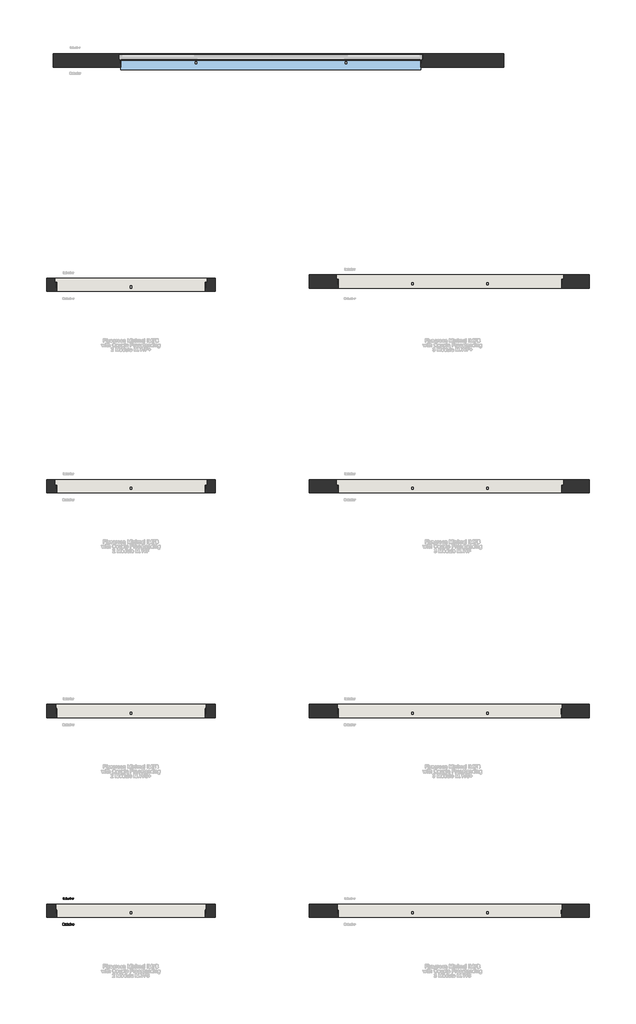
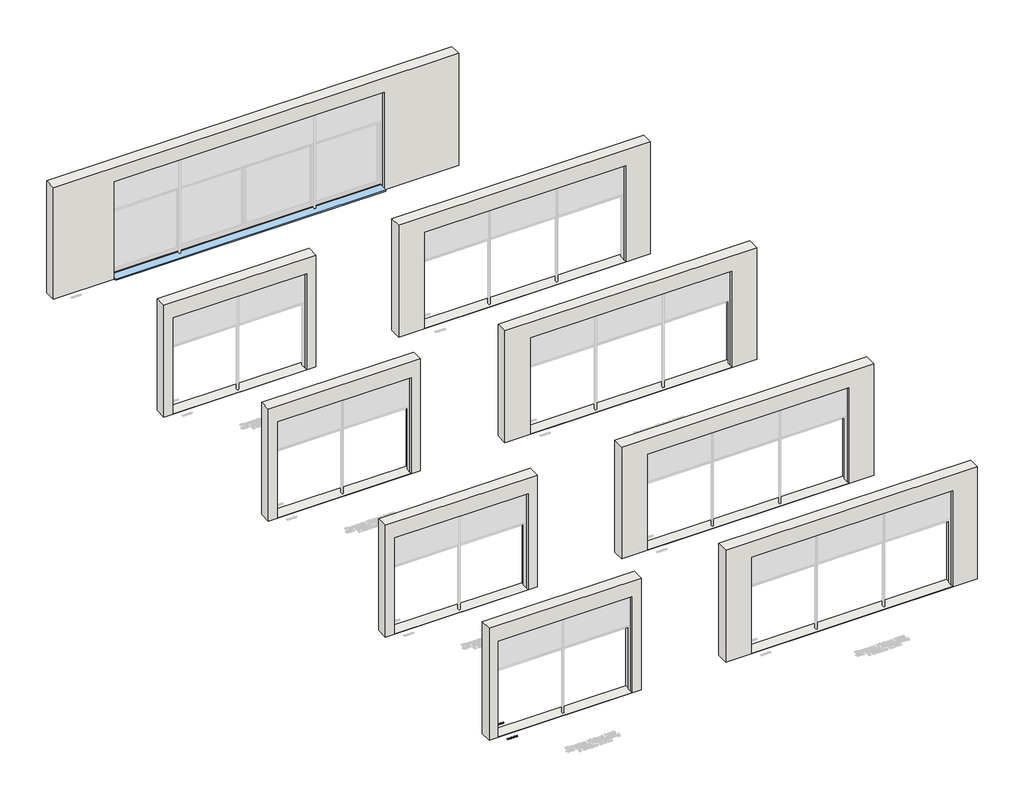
# One storey, part 1 of 14: 9 walls, 2 proxies, 1 window.
"""IFC4 building model written with IfcOpenShell, lengths in millimetres."""

from ifc_helpers import new_model, si_unit, origin, origin_with_axes, place, context, project, spatial, polyline, outline, extrude, faceted_brep, transform, mapped, element, save
from components import simple_generic_sliding_window_e4a07dc5

model = new_model("IFC4")

# Units and contexts
model_context = context("Model", 3, world=origin())
ifc_project = project(units=[si_unit("LENGTHUNIT", "METRE", prefix="MILLI")], contexts=[model_context])

# Site, building, storey
site = spatial("IfcSite", under=ifc_project)
building = spatial("IfcBuilding", under=site)
storey = spatial("IfcBuildingStorey", under=building, Name="Fixscreen Mini CF Overview Top", Elevation=0.0)

# Proxies
placement = place(None, origin())
element("IfcBuildingElementProxy", 1, Name="50mm Arial", ObjectType="50mm Arial", at=placement, inside=storey, context=model_context, shape_type="SweptSolid", body=[
    extrude(outline(polyline([(-9359.7717135, -1330.6720663), (-9318.4500461, -1330.6720663), (-9318.4500461, -1342.478257), (-9344.0301259, -1342.478257), (-9344.0301259, -1347.3975031), (-9320.4177446, -1347.3975031), (-9320.4177446, -1359.2036938), (-9344.0301259, -1359.2036938), (-9344.0301259, -1369.042186), (-9317.4661969, -1369.042186), (-9317.4661969, -1380.8483767), (-9359.7717135, -1380.8483767), (-9359.7717135, -1330.6720663)])), origin_with_axes(), (0.0, 0.0, 1.0), 3.0),
    extrude(outline(polyline([(-9313.5308, -1344.4459554), (-9296.8053632, -1344.4459554), (-9291.3941925, -1354.5919005), (-9283.0314741, -1344.4459554), (-9269.257585, -1344.4459554), (-9281.6786814, -1361.786298), (-9268.2737357, -1380.8483767), (-9284.0153233, -1380.8483767), (-9291.3941925, -1369.1190492), (-9300.7407601, -1380.8483767), (-9314.5146492, -1380.8483767), (-9301.1097036, -1361.786298), (-9313.5308, -1344.4459554)])), origin_with_axes(), (0.0, 0.0, 1.0), 3.0),
    extrude(outline(polyline([(-9247.6129021, -1330.6720663), (-9247.6129021, -1344.4459554), (-9239.7421083, -1344.4459554), (-9239.7421083, -1354.2844477), (-9247.6129021, -1354.2844477), (-9247.6129021, -1367.6125301), (-9247.182468, -1370.7946674), (-9244.8765714, -1371.9937337), (-9240.7259575, -1371.071375), (-9239.7421083, -1380.7100229), (-9249.1809118, -1381.8322259), (-9256.6673894, -1380.4717469), (-9260.2338429, -1376.3365056), (-9261.3867912, -1367.3358225), (-9261.3867912, -1354.2844477), (-9266.3060373, -1354.2844477), (-9266.3060373, -1344.4459554), (-9261.3867912, -1344.4459554), (-9261.3867912, -1337.8049732), (-9247.6129021, -1330.6720663)])), origin_with_axes(), (0.0, 0.0, 1.0), 3.0),
    extrude(outline(polyline([(-9193.5011948, -1365.2989472), (-9221.048973, -1366.0906383), (-9219.3272369, -1370.1028984), (-9214.3003823, -1371.9937337), (-9210.5802024, -1371.0867477), (-9208.2589331, -1369.042186), (-9194.485044, -1370.0260352), (-9201.9023448, -1379.0882089), (-9214.3772455, -1381.8322259), (-9225.4609219, -1379.7722916), (-9232.1633947, -1373.2389178), (-9234.8228622, -1362.7086566), (-9229.4654957, -1348.7887274), (-9223.08777, -1344.7937615), (-9214.6693257, -1343.4621062), (-9202.5787411, -1345.844866), (-9195.822464, -1352.7471832), (-9193.5011948, -1365.2989472)]), holes=[polyline([(-9207.2750839, -1359.2036938), (-9209.450313, -1354.6687638), (-9214.1005379, -1353.3005984), (-9219.4041001, -1355.3605327), (-9221.0182277, -1359.2036938), (-9207.2750839, -1359.2036938)])]), origin_with_axes(), (0.0, 0.0, 1.0), 3.0),
    extrude(outline(polyline([(-9187.5980994, -1344.4459554), (-9174.7619416, -1344.4459554), (-9174.7619416, -1350.3029328), (-9170.8496037, -1344.9301937), (-9165.8611807, -1343.4621062), (-9159.066472, -1345.5220405), (-9163.4169302, -1355.3144148), (-9167.3523271, -1354.2844477), (-9171.6412948, -1356.559599), (-9173.8242103, -1368.565634), (-9173.8242103, -1380.8483767), (-9187.5980994, -1380.8483767), (-9187.5980994, -1344.4459554)])), origin_with_axes(), (0.0, 0.0, 1.0), 3.0),
    extrude(outline(polyline([(-9156.1149243, -1330.6720663), (-9142.3410352, -1330.6720663), (-9142.3410352, -1340.5105585), (-9156.1149243, -1340.5105585), (-9156.1149243, -1330.6720663)])), origin_with_axes(), (0.0, 0.0, 1.0), 3.0),
    extrude(outline(polyline([(-9156.1149243, -1344.4459554), (-9142.3410352, -1344.4459554), (-9142.3410352, -1380.8483767), (-9156.1149243, -1380.8483767), (-9156.1149243, -1344.4459554)])), origin_with_axes(), (0.0, 0.0, 1.0), 3.0),
    extrude(outline(polyline([(-9134.4702414, -1362.7547746), (-9129.0513843, -1348.9040222), (-9122.6775018, -1344.8225852), (-9114.3935682, -1343.4621062), (-9105.1392364, -1345.0608612), (-9098.4675089, -1349.8571262), (-9094.1324232, -1362.5395575), (-9099.5051623, -1376.4210552), (-9105.905947, -1380.4794332), (-9114.3628229, -1381.8322259), (-9128.0598488, -1377.3434138), (-9132.8676432, -1370.9138054), (-9134.4702414, -1362.7547746)]), holes=[polyline([(-9120.6963523, -1362.6317934), (-9118.8746939, -1369.7032097), (-9114.2859597, -1371.9937337), (-9109.6972254, -1369.733955), (-9107.9063124, -1362.4934396), (-9109.712598, -1355.5757498), (-9114.1937238, -1353.3005984), (-9118.8593213, -1355.606495), (-9120.6963523, -1362.6317934)])]), origin_with_axes(), (0.0, 0.0, 1.0), 3.0),
    extrude(outline(polyline([(-9087.2454787, -1344.4459554), (-9074.4093208, -1344.4459554), (-9074.4093208, -1350.3029328), (-9070.4969829, -1344.9301937), (-9065.5085599, -1343.4621062), (-9058.7138512, -1345.5220405), (-9063.0643095, -1355.3144148), (-9066.9997064, -1354.2844477), (-9071.2886741, -1356.559599), (-9073.4715895, -1368.565634), (-9073.4715895, -1380.8483767), (-9087.2454787, -1380.8483767), (-9087.2454787, -1344.4459554)])), origin_with_axes(), (0.0, 0.0, 1.0), 3.0),
])
element("IfcBuildingElementProxy", 2, Name="50mm Arial", ObjectType="50mm Arial", at=placement, inside=storey, context=model_context, shape_type="SweptSolid", body=[
    extrude(outline(polyline([(-9347.4735982, -640.379715), (-9331.7320107, -640.379715), (-9331.7320107, -690.5560254), (-9347.4735982, -690.5560254), (-9347.4735982, -640.379715)])), origin_with_axes(), (0.0, 0.0, 1.0), 3.0),
    extrude(outline(polyline([(-9321.8935184, -654.1536041), (-9309.0727332, -654.1536041), (-9309.0727332, -659.9183456), (-9303.1619516, -654.7300783), (-9295.8830046, -653.1697549), (-9286.8054582, -656.6285998), (-9283.5233987, -667.3125875), (-9283.5233987, -690.5560254), (-9297.2972878, -690.5560254), (-9297.2972878, -670.3256257), (-9298.6039626, -665.4294386), (-9302.2626519, -663.9920963), (-9306.4978153, -665.9290495), (-9308.1196293, -672.8928573), (-9308.1196293, -690.5560254), (-9321.8935184, -690.5560254), (-9321.8935184, -654.1536041)])), origin_with_axes(), (0.0, 0.0, 1.0), 3.0),
    extrude(outline(polyline([(-9258.9271681, -640.379715), (-9258.9271681, -654.1536041), (-9251.0563743, -654.1536041), (-9251.0563743, -663.9920963), (-9258.9271681, -663.9920963), (-9258.9271681, -677.3201788), (-9258.4967341, -680.5023161), (-9256.1908375, -681.7013824), (-9252.0402236, -680.7790237), (-9251.0563743, -690.4176716), (-9260.4951778, -691.5398746), (-9267.9816555, -690.1793956), (-9271.5481089, -686.0441543), (-9272.7010573, -677.0434712), (-9272.7010573, -663.9920963), (-9277.6203034, -663.9920963), (-9277.6203034, -654.1536041), (-9272.7010573, -654.1536041), (-9272.7010573, -647.5126218), (-9258.9271681, -640.379715)])), origin_with_axes(), (0.0, 0.0, 1.0), 3.0),
    extrude(outline(polyline([(-9204.8154608, -675.0065958), (-9232.3632391, -675.798287), (-9230.641503, -679.8105471), (-9225.6146483, -681.7013824), (-9221.8944685, -680.7943964), (-9219.5731992, -678.7498347), (-9205.7993101, -679.7336839), (-9213.2166109, -688.7958576), (-9225.6915116, -691.5398746), (-9236.775188, -689.4799403), (-9243.4776608, -682.9465665), (-9246.1371282, -672.4163053), (-9240.7797618, -658.4963761), (-9234.402036, -654.5014102), (-9225.9835918, -653.1697549), (-9213.8930072, -655.5525147), (-9207.1367301, -662.4548319), (-9204.8154608, -675.0065958)]), holes=[polyline([(-9218.58935, -668.9113425), (-9220.7645791, -664.3764124), (-9225.414804, -663.0082471), (-9230.7183662, -665.0681814), (-9232.3324938, -668.9113425), (-9218.58935, -668.9113425)])]), origin_with_axes(), (0.0, 0.0, 1.0), 3.0),
    extrude(outline(polyline([(-9198.9123655, -654.1536041), (-9186.0762077, -654.1536041), (-9186.0762077, -660.0105815), (-9182.1638697, -654.6378424), (-9177.1754467, -653.1697549), (-9170.380738, -655.2296892), (-9174.7311963, -665.0220635), (-9178.6665932, -663.9920963), (-9182.9555609, -666.2672477), (-9185.1384764, -678.2732827), (-9185.1384764, -690.5560254), (-9198.9123655, -690.5560254), (-9198.9123655, -654.1536041)])), origin_with_axes(), (0.0, 0.0, 1.0), 3.0),
    extrude(outline(polyline([(-9167.4291904, -640.379715), (-9153.6553012, -640.379715), (-9153.6553012, -650.2182072), (-9167.4291904, -650.2182072), (-9167.4291904, -640.379715)])), origin_with_axes(), (0.0, 0.0, 1.0), 3.0),
    extrude(outline(polyline([(-9167.4291904, -654.1536041), (-9153.6553012, -654.1536041), (-9153.6553012, -690.5560254), (-9167.4291904, -690.5560254), (-9167.4291904, -654.1536041)])), origin_with_axes(), (0.0, 0.0, 1.0), 3.0),
    extrude(outline(polyline([(-9145.7845074, -672.4624232), (-9140.3656504, -658.6116709), (-9133.9917678, -654.5302339), (-9125.7078342, -653.1697549), (-9116.4535025, -654.7685099), (-9109.7817749, -659.5647748), (-9105.4466893, -672.2472062), (-9110.8194284, -686.1287039), (-9117.2202131, -690.1870819), (-9125.6770889, -691.5398746), (-9139.3741149, -687.0510625), (-9144.1819093, -680.6214541), (-9145.7845074, -672.4624232)]), holes=[polyline([(-9132.0106183, -672.3394421), (-9130.18896, -679.4108584), (-9125.6002257, -681.7013824), (-9121.0114915, -679.4416037), (-9119.2205784, -672.2010883), (-9121.0268641, -665.2833984), (-9125.5079899, -663.0082471), (-9130.1735874, -665.3141437), (-9132.0106183, -672.3394421)])]), origin_with_axes(), (0.0, 0.0, 1.0), 3.0),
    extrude(outline(polyline([(-9098.5597447, -654.1536041), (-9085.7235869, -654.1536041), (-9085.7235869, -660.0105815), (-9081.811249, -654.6378424), (-9076.822826, -653.1697549), (-9070.0281173, -655.2296892), (-9074.3785755, -665.0220635), (-9078.3139724, -663.9920963), (-9082.6029401, -666.2672477), (-9084.7858556, -678.2732827), (-9084.7858556, -690.5560254), (-9098.5597447, -690.5560254), (-9098.5597447, -654.1536041)])), origin_with_axes(), (0.0, 0.0, 1.0), 3.0),
])

# Walls
element("IfcWall", 3, ObjectType="REN Cavity Wall 350mm 10-140-80-30-90", at=placement, inside=storey, context=model_context, shape_type="Brep", body=[
    faceted_brep([(-9793.8595357, -1167.2938309, 0.0), (-5293.8595357, -1167.2938309, 0.0), (-5293.8595357, -1167.2938309, 3500.0), (-9793.8595357, -1167.2938309, 3500.0), (-9519.8595357, -1167.2938309, 3010.0), (-5567.8595357, -1167.2938309, 3010.0), (-5567.8595357, -1167.2938309, 10.0), (-9519.8595357, -1167.2938309, 10.0), (-5293.8595357, -817.2938309, 0.0), (-9793.8595357, -817.2938309, 0.0), (-9793.8595357, -817.2938309, 3500.0), (-5293.8595357, -817.2938309, 3500.0), (-9543.8595357, -817.2938309, 3010.0), (-9543.8595357, -817.2938309, 10.0), (-5543.8595357, -817.2938309, 10.0), (-5543.8595357, -817.2938309, 3010.0), (-9543.8595357, -967.2938309, 3170.0), (-9543.8595357, -1077.2938309, 3170.0), (-9543.8595357, -1077.2938309, 10.0), (-9543.8595357, -967.2938309, 3010.0), (-5543.8595357, -967.2938309, 3170.0), (-5543.8595357, -967.2938309, 3010.0), (-5543.8595357, -1077.2938309, 10.0), (-5543.8595357, -1077.2938309, 3170.0), (-5567.8595357, -1077.2938309, 10.0), (-5567.8595357, -1077.2938309, 3010.0), (-9519.8595357, -1077.2938309, 3010.0), (-9519.8595357, -1077.2938309, 10.0)], [[[0, 1, 2, 3], [4, 5, 6, 7]], [[8, 9, 10, 11], [12, 13, 14, 15]], [[1, 0, 9, 8]], [[2, 1, 8, 11]], [[3, 2, 11, 10]], [[0, 3, 10, 9]], [[16, 17, 18, 13, 12, 19]], [[20, 21, 15, 14, 22, 23]], [[16, 19, 21, 20]], [[18, 17, 23, 22, 24, 25, 26, 27]], [[17, 16, 20, 23]], [[21, 19, 12, 15]], [[26, 25, 5, 4]], [[24, 22, 14, 13, 18, 27, 7, 6]], [[25, 24, 6, 5]], [[27, 26, 4, 7]]]),
])
element("IfcWall", 4, ObjectType="REN Cavity Wall 350mm 10-140-80-30-90", at=placement, inside=storey, context=model_context, shape_type="Brep", body=[
    faceted_brep([(-2793.8595357, -1167.2938309, 0.0), (4666.1404643, -1167.2938309, 0.0), (4666.1404643, -1167.2938309, 3500.0), (-2793.8595357, -1167.2938309, 3500.0), (-2019.8595357, -1167.2938309, 3010.0), (3932.1404643, -1167.2938309, 3010.0), (3932.1404643, -1167.2938309, 10.0), (-2019.8595357, -1167.2938309, 10.0), (4666.1404643, -817.2938309, 0.0), (-2793.8595357, -817.2938309, 0.0), (-2793.8595357, -817.2938309, 3500.0), (4666.1404643, -817.2938309, 3500.0), (-2043.8595357, -817.2938309, 3010.0), (-2043.8595357, -817.2938309, 10.0), (3956.1404643, -817.2938309, 10.0), (3956.1404643, -817.2938309, 3010.0), (-2043.8595357, -967.2938309, 3170.0), (-2043.8595357, -1077.2938309, 3170.0), (-2043.8595357, -1077.2938309, 10.0), (-2043.8595357, -967.2938309, 3010.0), (3956.1404643, -967.2938309, 3170.0), (3956.1404643, -967.2938309, 3010.0), (3956.1404643, -1077.2938309, 10.0), (3956.1404643, -1077.2938309, 3170.0), (3932.1404643, -1077.2938309, 10.0), (3932.1404643, -1077.2938309, 3010.0), (-2019.8595357, -1077.2938309, 3010.0), (-2019.8595357, -1077.2938309, 10.0)], [[[0, 1, 2, 3], [4, 5, 6, 7]], [[8, 9, 10, 11], [12, 13, 14, 15]], [[1, 0, 9, 8]], [[2, 1, 8, 11]], [[3, 2, 11, 10]], [[0, 3, 10, 9]], [[16, 17, 18, 13, 12, 19]], [[20, 21, 15, 14, 22, 23]], [[16, 19, 21, 20]], [[18, 17, 23, 22, 24, 25, 26, 27]], [[17, 16, 20, 23]], [[21, 19, 12, 15]], [[26, 25, 5, 4]], [[24, 22, 14, 13, 18, 27, 7, 6]], [[25, 24, 6, 5]], [[27, 26, 4, 7]]]),
])
element("IfcWall", 5, ObjectType="REN Cavity Wall 350mm 10-140-80-30-90", at=placement, inside=storey, context=model_context, shape_type="Brep", body=[
    faceted_brep([(-9613.8595357, 21495.3673585, 0.0), (2386.1404643, 21495.3673585, 0.0), (2386.1404643, 21495.3673585, 3500.0), (-9613.8595357, 21495.3673585, 3500.0), (186.1404643, 21495.3673585, 3055.0), (186.1404643, 21495.3673585, 5.0119746), (-7813.8595357, 21495.3673585, 5.0119746), (-7813.8595357, 21495.3673585, 55.0), (-7815.8595357, 21495.3673585, 55.0), (-7815.8595357, 21495.3673585, 3055.0), (2386.1404643, 21845.3673585, 0.0), (-9613.8595357, 21845.3673585, 0.0), (-9613.8595357, 21845.3673585, 3500.0), (2386.1404643, 21845.3673585, 3500.0), (236.1404643, 21845.3673585, 3195.0), (-7863.8595357, 21845.3673585, 3195.0), (-7863.8595357, 21845.3673585, 3055.0), (-7869.8595357, 21845.3673585, 3055.0), (-7869.8595357, 21845.3673585, 55.0), (240.1404643, 21845.3673585, 55.0), (240.1404643, 21845.3673585, 3055.0), (236.1404643, 21845.3673585, 3055.0), (236.1404643, 21690.3673585, 3195.0), (236.1404643, 21690.3673585, 55.0), (210.1404643, 21690.3673585, 55.0), (210.1404643, 21690.3673585, 3195.0), (226.1404643, 21690.3673585, 3195.0), (-7863.8595357, 21690.3673585, 55.0), (-7863.8595357, 21690.3673585, 3195.0), (-7853.8595357, 21690.3673585, 3195.0), (-7839.8595357, 21690.3673585, 3195.0), (-7839.8595357, 21690.3673585, 55.0), (210.1404643, 21695.3673585, 3195.0), (-7839.8595357, 21695.3673585, 3195.0), (236.1404643, 21691.3673585, 3055.0), (236.1404643, 21691.3673585, 55.0), (-7813.8595357, 21690.3673585, 55.0), (186.1404643, 21690.3673585, 55.0), (186.1404643, 21585.3673585, 55.0), (210.1404643, 21585.3673585, 55.0), (240.1404643, 21691.3673585, 55.0), (-7869.8595357, 21691.3673585, 55.0), (-7863.8595357, 21691.3673585, 55.0), (-7839.8595357, 21585.3673585, 55.0), (-7815.8595357, 21585.3673585, 55.0), (-7863.8595357, 21691.3673585, 3055.0), (-7813.8595357, 21690.3673585, 5.0119746), (186.1404643, 21690.3673585, 5.0119746), (186.1404643, 21585.3673585, 3055.0), (-7839.8595357, 21695.3673585, 3215.0), (-7839.8595357, 21585.3673585, 3215.0), (210.1404643, 21585.3673585, 3215.0), (210.1404643, 21695.3673585, 3215.0), (-7815.8595357, 21585.3673585, 3055.0), (-7869.8595357, 21691.3673585, 3055.0), (240.1404643, 21691.3673585, 3055.0)], [[[0, 1, 2, 3], [4, 5, 6, 7, 8, 9]], [[10, 11, 12, 13], [14, 15, 16, 17, 18, 19, 20, 21]], [[1, 0, 11, 10]], [[2, 1, 10, 13]], [[3, 2, 13, 12]], [[0, 3, 12, 11]], [[22, 23, 24, 25, 26]], [[27, 28, 29, 30, 31]], [[29, 28, 15, 14, 22, 26, 25, 32, 33, 30]], [[23, 22, 14, 21, 34, 35]], [[36, 37, 38, 39, 24, 23, 35, 40, 19, 18, 41, 42, 27, 31, 43, 44, 8, 7]], [[28, 27, 42, 45, 16, 15]], [[46, 36, 7, 6]], [[37, 47, 5, 4, 48, 38]], [[47, 46, 6, 5]], [[37, 36, 46, 47]], [[49, 50, 43, 31, 30, 33]], [[39, 51, 52, 32, 25, 24]], [[52, 49, 33, 32]], [[43, 50, 51, 39, 38, 48, 53, 44]], [[50, 49, 52, 51]], [[53, 48, 4, 9]], [[45, 54, 17, 16]], [[20, 55, 34, 21]], [[44, 53, 9, 8]], [[55, 40, 35, 34]], [[40, 55, 20, 19]], [[54, 41, 18, 17]], [[41, 54, 45, 42]]]),
])
element("IfcWall", 6, ObjectType="REN Cavity Wall 350mm 10-140-80-30-90", at=placement, inside=storey, context=model_context, shape_type="Brep", body=[
    faceted_brep([(-9793.8595357, 10151.5367638, 0.0), (-5293.8595357, 10151.5367638, 0.0), (-5293.8595357, 10151.5367638, 3500.0), (-9793.8595357, 10151.5367638, 3500.0), (-9519.8595357, 10151.5367638, 3010.0), (-5567.8595357, 10151.5367638, 3010.0), (-5567.8595357, 10151.5367638, 10.0), (-9519.8595357, 10151.5367638, 10.0), (-5293.8595357, 10501.5367638, 0.0), (-9793.8595357, 10501.5367638, 0.0), (-9793.8595357, 10501.5367638, 3500.0), (-5293.8595357, 10501.5367638, 3500.0), (-5513.8595357, 10501.5367638, 3010.0), (-9573.8595357, 10501.5367638, 3010.0), (-9573.8595357, 10501.5367638, 10.0), (-5513.8595357, 10501.5367638, 10.0), (-9543.8595357, 10351.5367638, 3170.0), (-9543.8595357, 10241.5367638, 3170.0), (-9543.8595357, 10241.5367638, 10.0), (-9543.8595357, 10347.5367638, 10.0), (-9543.8595357, 10347.5367638, 3010.0), (-9543.8595357, 10351.5367638, 3010.0), (-5543.8595357, 10351.5367638, 3170.0), (-5543.8595357, 10351.5367638, 3010.0), (-5543.8595357, 10347.5367638, 3010.0), (-5543.8595357, 10347.5367638, 10.0), (-5543.8595357, 10241.5367638, 10.0), (-5543.8595357, 10241.5367638, 3170.0), (-5567.8595357, 10241.5367638, 10.0), (-5567.8595357, 10241.5367638, 3010.0), (-9519.8595357, 10241.5367638, 3010.0), (-9519.8595357, 10241.5367638, 10.0), (-9573.8595357, 10347.5367638, 3010.0), (-5513.8595357, 10347.5367638, 3010.0), (-5513.8595357, 10347.5367638, 10.0), (-9573.8595357, 10347.5367638, 10.0)], [[[0, 1, 2, 3], [4, 5, 6, 7]], [[8, 9, 10, 11], [12, 13, 14, 15]], [[1, 0, 9, 8]], [[2, 1, 8, 11]], [[3, 2, 11, 10]], [[0, 3, 10, 9]], [[16, 17, 18, 19, 20, 21]], [[22, 23, 24, 25, 26, 27]], [[16, 21, 23, 22]], [[18, 17, 27, 26, 28, 29, 30, 31]], [[17, 16, 22, 27]], [[30, 29, 5, 4]], [[21, 20, 32, 13, 12, 33, 24, 23]], [[19, 18, 31, 7, 6, 28, 26, 25, 34, 15, 14, 35]], [[29, 28, 6, 5]], [[31, 30, 4, 7]], [[25, 24, 33, 34]], [[34, 33, 12, 15]], [[32, 35, 14, 13]], [[20, 19, 35, 32]]]),
])
element("IfcWall", 7, ObjectType="REN Cavity Wall 350mm 10-140-80-30-90", at=placement, inside=storey, context=model_context, shape_type="Brep", body=[
    faceted_brep([(-2793.8595357, 10151.5367638, 0.0), (4666.1404643, 10151.5367638, 0.0), (4666.1404643, 10151.5367638, 3500.0), (-2793.8595357, 10151.5367638, 3500.0), (-2019.8595357, 10151.5367638, 3010.0), (3932.1404643, 10151.5367638, 3010.0), (3932.1404643, 10151.5367638, 10.0), (-2019.8595357, 10151.5367638, 10.0), (4666.1404643, 10501.5367638, 0.0), (-2793.8595357, 10501.5367638, 0.0), (-2793.8595357, 10501.5367638, 3500.0), (4666.1404643, 10501.5367638, 3500.0), (3986.1404643, 10501.5367638, 3010.0), (-2073.8595357, 10501.5367638, 3010.0), (-2073.8595357, 10501.5367638, 10.0), (3986.1404643, 10501.5367638, 10.0), (-2043.8595357, 10351.5367638, 3170.0), (-2043.8595357, 10241.5367638, 3170.0), (-2043.8595357, 10241.5367638, 10.0), (-2043.8595357, 10347.5367638, 10.0), (-2043.8595357, 10347.5367638, 3010.0), (-2043.8595357, 10351.5367638, 3010.0), (3956.1404643, 10351.5367638, 3170.0), (3956.1404643, 10351.5367638, 3010.0), (3956.1404643, 10347.5367638, 3010.0), (3956.1404643, 10347.5367638, 10.0), (3956.1404643, 10241.5367638, 10.0), (3956.1404643, 10241.5367638, 3170.0), (3932.1404643, 10241.5367638, 10.0), (3932.1404643, 10241.5367638, 3010.0), (-2019.8595357, 10241.5367638, 3010.0), (-2019.8595357, 10241.5367638, 10.0), (-2073.8595357, 10347.5367638, 3010.0), (3986.1404643, 10347.5367638, 3010.0), (3986.1404643, 10347.5367638, 10.0), (-2073.8595357, 10347.5367638, 10.0)], [[[0, 1, 2, 3], [4, 5, 6, 7]], [[8, 9, 10, 11], [12, 13, 14, 15]], [[1, 0, 9, 8]], [[2, 1, 8, 11]], [[3, 2, 11, 10]], [[0, 3, 10, 9]], [[16, 17, 18, 19, 20, 21]], [[22, 23, 24, 25, 26, 27]], [[16, 21, 23, 22]], [[18, 17, 27, 26, 28, 29, 30, 31]], [[17, 16, 22, 27]], [[30, 29, 5, 4]], [[21, 20, 32, 13, 12, 33, 24, 23]], [[19, 18, 31, 7, 6, 28, 26, 25, 34, 15, 14, 35]], [[29, 28, 6, 5]], [[31, 30, 4, 7]], [[25, 24, 33, 34]], [[34, 33, 12, 15]], [[32, 35, 14, 13]], [[20, 19, 35, 32]]]),
])
element("IfcWall", 8, ObjectType="REN Cavity Wall 350mm 10-140-80-30-90", at=placement, inside=storey, context=model_context, shape_type="Brep", body=[
    faceted_brep([(-9793.8595357, 4157.1214664, 0.0), (-5293.8595357, 4157.1214664, 0.0), (-5293.8595357, 4157.1214664, 3500.0), (-9793.8595357, 4157.1214664, 3500.0), (-9519.8595357, 4157.1214664, 3010.0), (-5567.8595357, 4157.1214664, 3010.0), (-5567.8595357, 4157.1214664, 10.0), (-9519.8595357, 4157.1214664, 10.0), (-5293.8595357, 4507.1214664, 0.0), (-9793.8595357, 4507.1214664, 0.0), (-9793.8595357, 4507.1214664, 3500.0), (-5293.8595357, 4507.1214664, 3500.0), (-9543.8595357, 4507.1214664, 3010.0), (-9543.8595357, 4507.1214664, 10.0), (-5543.8595357, 4507.1214664, 10.0), (-5543.8595357, 4507.1214664, 3010.0), (-9543.8595357, 4397.1214664, 3180.0), (-9543.8595357, 4247.1214664, 3180.0), (-9543.8595357, 4247.1214664, 10.0), (-9543.8595357, 4397.1214664, 3010.0), (-5543.8595357, 4397.1214664, 3180.0), (-5543.8595357, 4397.1214664, 3010.0), (-5543.8595357, 4247.1214664, 10.0), (-5543.8595357, 4247.1214664, 3180.0), (-5567.8595357, 4247.1214664, 10.0), (-5567.8595357, 4247.1214664, 3010.0), (-9519.8595357, 4247.1214664, 3010.0), (-9519.8595357, 4247.1214664, 10.0)], [[[0, 1, 2, 3], [4, 5, 6, 7]], [[8, 9, 10, 11], [12, 13, 14, 15]], [[1, 0, 9, 8]], [[2, 1, 8, 11]], [[3, 2, 11, 10]], [[0, 3, 10, 9]], [[16, 17, 18, 13, 12, 19]], [[20, 21, 15, 14, 22, 23]], [[16, 19, 21, 20]], [[18, 17, 23, 22, 24, 25, 26, 27]], [[17, 16, 20, 23]], [[21, 19, 12, 15]], [[26, 25, 5, 4]], [[24, 22, 14, 13, 18, 27, 7, 6]], [[25, 24, 6, 5]], [[27, 26, 4, 7]]]),
])
element("IfcWall", 9, ObjectType="REN Cavity Wall 350mm 10-140-80-30-90", at=placement, inside=storey, context=model_context, shape_type="Brep", body=[
    faceted_brep([(-2793.8595357, 4157.1214664, 0.0), (4666.1404643, 4157.1214664, 0.0), (4666.1404643, 4157.1214664, 3500.0), (-2793.8595357, 4157.1214664, 3500.0), (-2019.8595357, 4157.1214664, 3010.0), (3932.1404643, 4157.1214664, 3010.0), (3932.1404643, 4157.1214664, 10.0), (-2019.8595357, 4157.1214664, 10.0), (4666.1404643, 4507.1214664, 0.0), (-2793.8595357, 4507.1214664, 0.0), (-2793.8595357, 4507.1214664, 3500.0), (4666.1404643, 4507.1214664, 3500.0), (-2043.8595357, 4507.1214664, 3010.0), (-2043.8595357, 4507.1214664, 10.0), (3956.1404643, 4507.1214664, 10.0), (3956.1404643, 4507.1214664, 3010.0), (-2043.8595357, 4397.1214664, 3180.0), (-2043.8595357, 4247.1214664, 3180.0), (-2043.8595357, 4247.1214664, 10.0), (-2043.8595357, 4397.1214664, 3010.0), (3956.1404643, 4397.1214664, 3180.0), (3956.1404643, 4397.1214664, 3010.0), (3956.1404643, 4247.1214664, 10.0), (3956.1404643, 4247.1214664, 3180.0), (3932.1404643, 4247.1214664, 10.0), (3932.1404643, 4247.1214664, 3010.0), (-2019.8595357, 4247.1214664, 3010.0), (-2019.8595357, 4247.1214664, 10.0)], [[[0, 1, 2, 3], [4, 5, 6, 7]], [[8, 9, 10, 11], [12, 13, 14, 15]], [[1, 0, 9, 8]], [[2, 1, 8, 11]], [[3, 2, 11, 10]], [[0, 3, 10, 9]], [[16, 17, 18, 13, 12, 19]], [[20, 21, 15, 14, 22, 23]], [[16, 19, 21, 20]], [[18, 17, 23, 22, 24, 25, 26, 27]], [[17, 16, 20, 23]], [[21, 19, 12, 15]], [[26, 25, 5, 4]], [[24, 22, 14, 13, 18, 27, 7, 6]], [[25, 24, 6, 5]], [[27, 26, 4, 7]]]),
])
element("IfcWall", 10, ObjectType="REN Cavity Wall 350mm 10-140-80-30-90", at=placement, inside=storey, context=model_context, shape_type="Brep", body=[
    faceted_brep([(-9793.8595357, 15515.9520611, 0.0), (-5293.8595357, 15515.9520611, 0.0), (-5293.8595357, 15515.9520611, 3500.0), (-9793.8595357, 15515.9520611, 3500.0), (-9519.8595357, 15515.9520611, 3010.0), (-5567.8595357, 15515.9520611, 3010.0), (-5567.8595357, 15515.9520611, 10.0), (-9519.8595357, 15515.9520611, 10.0), (-5293.8595357, 15865.9520611, 0.0), (-9793.8595357, 15865.9520611, 0.0), (-9793.8595357, 15865.9520611, 3500.0), (-5293.8595357, 15865.9520611, 3500.0), (-5513.8595357, 15865.9520611, 3010.0), (-9573.8595357, 15865.9520611, 3010.0), (-9573.8595357, 15865.9520611, 10.0), (-5513.8595357, 15865.9520611, 10.0), (-9543.8595357, 15755.9520611, 3180.0), (-9543.8595357, 15605.9520611, 3180.0), (-9543.8595357, 15605.9520611, 10.0), (-9543.8595357, 15751.9520611, 10.0), (-9543.8595357, 15751.9520611, 3010.0), (-9543.8595357, 15755.9520611, 3010.0), (-5543.8595357, 15755.9520611, 3180.0), (-5543.8595357, 15755.9520611, 3010.0), (-5543.8595357, 15751.9520611, 3010.0), (-5543.8595357, 15751.9520611, 10.0), (-5543.8595357, 15605.9520611, 10.0), (-5543.8595357, 15605.9520611, 3180.0), (-5567.8595357, 15605.9520611, 10.0), (-5567.8595357, 15605.9520611, 3010.0), (-9519.8595357, 15605.9520611, 3010.0), (-9519.8595357, 15605.9520611, 10.0), (-9573.8595357, 15751.9520611, 3010.0), (-5513.8595357, 15751.9520611, 3010.0), (-5513.8595357, 15751.9520611, 10.0), (-9573.8595357, 15751.9520611, 10.0)], [[[0, 1, 2, 3], [4, 5, 6, 7]], [[8, 9, 10, 11], [12, 13, 14, 15]], [[1, 0, 9, 8]], [[2, 1, 8, 11]], [[3, 2, 11, 10]], [[0, 3, 10, 9]], [[16, 17, 18, 19, 20, 21]], [[22, 23, 24, 25, 26, 27]], [[16, 21, 23, 22]], [[18, 17, 27, 26, 28, 29, 30, 31]], [[17, 16, 22, 27]], [[30, 29, 5, 4]], [[21, 20, 32, 13, 12, 33, 24, 23]], [[19, 18, 31, 7, 6, 28, 26, 25, 34, 15, 14, 35]], [[29, 28, 6, 5]], [[31, 30, 4, 7]], [[25, 24, 33, 34]], [[34, 33, 12, 15]], [[32, 35, 14, 13]], [[20, 19, 35, 32]]]),
])
element("IfcWall", 11, ObjectType="REN Cavity Wall 350mm 10-140-80-30-90", at=placement, inside=storey, context=model_context, shape_type="Brep", body=[
    faceted_brep([(-2793.8595357, 15605.6597098, 0.0), (4666.1404643, 15605.6597098, 0.0), (4666.1404643, 15605.6597098, 3500.0), (-2793.8595357, 15605.6597098, 3500.0), (-2019.8595357, 15605.6597098, 3010.0), (3932.1404643, 15605.6597098, 3010.0), (3932.1404643, 15605.6597098, 10.0), (-2019.8595357, 15605.6597098, 10.0), (4666.1404643, 15955.6597098, 0.0), (-2793.8595357, 15955.6597098, 0.0), (-2793.8595357, 15955.6597098, 3500.0), (4666.1404643, 15955.6597098, 3500.0), (3986.1404643, 15955.6597098, 3010.0), (-2073.8595357, 15955.6597098, 3010.0), (-2073.8595357, 15955.6597098, 10.0), (3986.1404643, 15955.6597098, 10.0), (-2043.8595357, 15845.6597098, 3180.0), (-2043.8595357, 15695.6597098, 3180.0), (-2043.8595357, 15695.6597098, 10.0), (-2043.8595357, 15841.6597098, 10.0), (-2043.8595357, 15841.6597098, 3010.0), (-2043.8595357, 15845.6597098, 3010.0), (3956.1404643, 15845.6597098, 3180.0), (3956.1404643, 15845.6597098, 3010.0), (3956.1404643, 15841.6597098, 3010.0), (3956.1404643, 15841.6597098, 10.0), (3956.1404643, 15695.6597098, 10.0), (3956.1404643, 15695.6597098, 3180.0), (3932.1404643, 15695.6597098, 10.0), (3932.1404643, 15695.6597098, 3010.0), (-2019.8595357, 15695.6597098, 3010.0), (-2019.8595357, 15695.6597098, 10.0), (-2073.8595357, 15841.6597098, 3010.0), (3986.1404643, 15841.6597098, 3010.0), (3986.1404643, 15841.6597098, 10.0), (-2073.8595357, 15841.6597098, 10.0)], [[[0, 1, 2, 3], [4, 5, 6, 7]], [[8, 9, 10, 11], [12, 13, 14, 15]], [[1, 0, 9, 8]], [[2, 1, 8, 11]], [[3, 2, 11, 10]], [[0, 3, 10, 9]], [[16, 17, 18, 19, 20, 21]], [[22, 23, 24, 25, 26, 27]], [[16, 21, 23, 22]], [[18, 17, 27, 26, 28, 29, 30, 31]], [[17, 16, 22, 27]], [[30, 29, 5, 4]], [[21, 20, 32, 13, 12, 33, 24, 23]], [[19, 18, 31, 7, 6, 28, 26, 25, 34, 15, 14, 35]], [[29, 28, 6, 5]], [[31, 30, 4, 7]], [[25, 24, 33, 34]], [[34, 33, 12, 15]], [[32, 35, 14, 13]], [[20, 19, 35, 32]]]),
])

# Window
simple_generic_sliding_window_shape = simple_generic_sliding_window_e4a07dc5(model_context)
element("IfcWindow", 12, ObjectType="REN_TEM_WIN_MAIN_Slide : Simple generic sliding window", at=placement, inside=storey, context=model_context, shape_type="MappedRepresentation", body=[
    mapped(simple_generic_sliding_window_shape, transform((-3813.8595357, 21670.3673585, -795.0), x_axis=(-1.0, 0.0, 0.0), y_axis=(0.0, -1.0, 0.0), z_axis=(0.0, 0.0, 1.0))),
])

save(model, "model.ifc")
